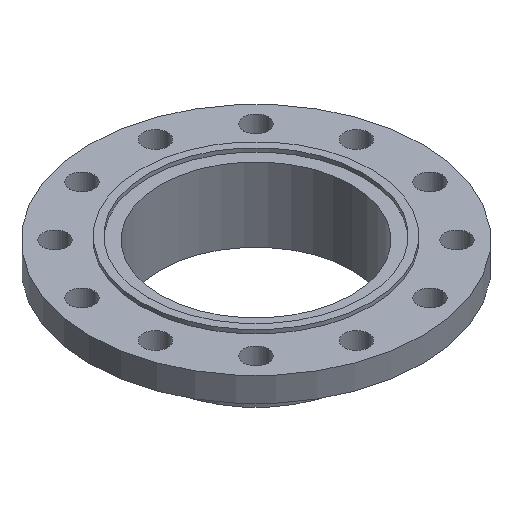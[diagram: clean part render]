
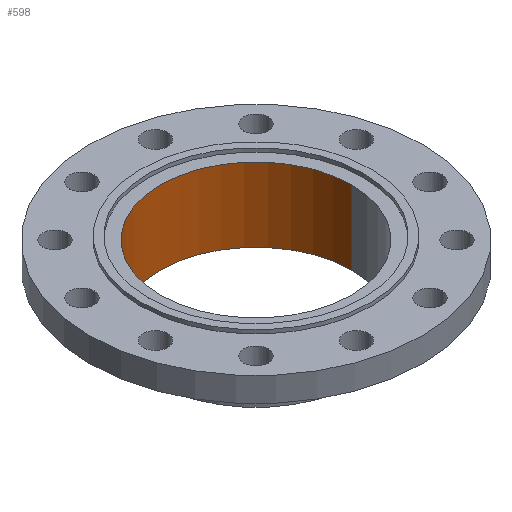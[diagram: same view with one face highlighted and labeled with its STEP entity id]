
A CAD part, isometric view. The second image highlights one B-rep face of the part: STEP entity #598.
In plain terms, the highlighted cylindrical face has radius 129.4 mm (diameter 258.8 mm), a partial arc.
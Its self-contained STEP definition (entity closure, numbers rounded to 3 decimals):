
#56 = CARTESIAN_POINT ( 'NONE',  ( -129.4, 0., -5. ) ) ;
#71 = CARTESIAN_POINT ( 'NONE',  ( 129.4, 0., -5. ) ) ;
#107 = CARTESIAN_POINT ( 'NONE',  ( 129.4, 0., -105. ) ) ;
#174 = CARTESIAN_POINT ( 'NONE',  ( -129.4, 0., -105. ) ) ;
#199 = EDGE_CURVE ( 'NONE', #1421, #1402, #300, .T. ) ;
#211 = EDGE_CURVE ( 'NONE', #1402, #1379, #855, .T. ) ;
#300 = CIRCLE ( 'NONE', #303, 129.4 ) ;
#303 = AXIS2_PLACEMENT_3D ( 'NONE', #861, #857, #856 ) ;
#330 = VECTOR ( 'NONE', #851, 1000. ) ;
#536 = EDGE_CURVE ( 'NONE', #1421, #1345, #718, .T. ) ;
#573 = DIRECTION ( 'NONE',  ( -1., 0., 0. ) ) ;
#575 = DIRECTION ( 'NONE',  ( 0., 0., -1. ) ) ;
#576 = CARTESIAN_POINT ( 'NONE',  ( 0., 0., -105. ) ) ;
#598 = ADVANCED_FACE ( 'NONE', ( #700 ), #699, .F. ) ;
#622 = AXIS2_PLACEMENT_3D ( 'NONE', #698, #696, #695 ) ;
#628 = CIRCLE ( 'NONE', #637, 129.4 ) ;
#637 = AXIS2_PLACEMENT_3D ( 'NONE', #576, #575, #573 ) ;
#695 = DIRECTION ( 'NONE',  ( -1., 0., 0. ) ) ;
#696 = DIRECTION ( 'NONE',  ( 0., 0., -1. ) ) ;
#698 = CARTESIAN_POINT ( 'NONE',  ( 0., 0., -115. ) ) ;
#699 = CYLINDRICAL_SURFACE ( 'NONE', #622, 129.4 ) ;
#700 = FACE_OUTER_BOUND ( 'NONE', #1223, .T. ) ;
#715 = DIRECTION ( 'NONE',  ( 0., 0., -1. ) ) ;
#717 = CARTESIAN_POINT ( 'NONE',  ( -129.4, 0., -115. ) ) ;
#718 = LINE ( 'NONE', #717, #960 ) ;
#826 = EDGE_CURVE ( 'NONE', #1345, #1379, #628, .T. ) ;
#851 = DIRECTION ( 'NONE',  ( 0., 0., -1. ) ) ;
#854 = CARTESIAN_POINT ( 'NONE',  ( 129.4, 0., -115. ) ) ;
#855 = LINE ( 'NONE', #854, #330 ) ;
#856 = DIRECTION ( 'NONE',  ( 1., 0., 0. ) ) ;
#857 = DIRECTION ( 'NONE',  ( 0., 0., -1. ) ) ;
#861 = CARTESIAN_POINT ( 'NONE',  ( 0., 0., -5. ) ) ;
#960 = VECTOR ( 'NONE', #715, 1000. ) ;
#1188 = ORIENTED_EDGE ( 'NONE', *, *, #211, .F. ) ;
#1189 = ORIENTED_EDGE ( 'NONE', *, *, #199, .F. ) ;
#1190 = ORIENTED_EDGE ( 'NONE', *, *, #536, .T. ) ;
#1191 = ORIENTED_EDGE ( 'NONE', *, *, #826, .T. ) ;
#1223 = EDGE_LOOP ( 'NONE', ( #1188, #1189, #1190, #1191 ) ) ;
#1345 = VERTEX_POINT ( 'NONE', #174 ) ;
#1379 = VERTEX_POINT ( 'NONE', #107 ) ;
#1402 = VERTEX_POINT ( 'NONE', #71 ) ;
#1421 = VERTEX_POINT ( 'NONE', #56 ) ;
